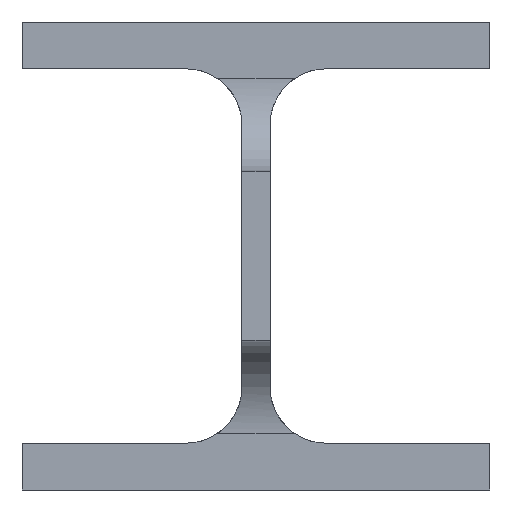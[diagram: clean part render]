
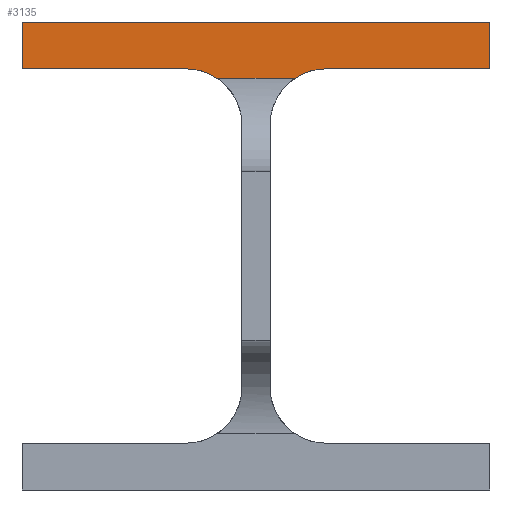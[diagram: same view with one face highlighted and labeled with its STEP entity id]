
A CAD part, front view. The second image highlights one B-rep face of the part: STEP entity #3135.
In plain terms, the highlighted planar face has unit normal (0, -1, 0).
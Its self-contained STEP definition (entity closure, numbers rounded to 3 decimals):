
#68 = EDGE_CURVE ( 'NONE', #3659, #521, #294, .T. ) ;
#95 = CARTESIAN_POINT ( 'NONE',  ( 50., 52., 2390. ) ) ;
#179 = ORIENTED_EDGE ( 'NONE', *, *, #68, .T. ) ;
#227 = EDGE_CURVE ( 'NONE', #2035, #3659, #2768, .T. ) ;
#228 = CARTESIAN_POINT ( 'NONE',  ( 15., 52., 2380. ) ) ;
#272 = CARTESIAN_POINT ( 'NONE',  ( 15., 52., 2380. ) ) ;
#294 = LINE ( 'NONE', #3525, #3067 ) ;
#325 = VECTOR ( 'NONE', #2594, 1000. ) ;
#416 = LINE ( 'NONE', #1543, #325 ) ;
#434 = AXIS2_PLACEMENT_3D ( 'NONE', #2231, #2876, #1183 ) ;
#444 = EDGE_CURVE ( 'NONE', #1883, #3564, #2618, .T. ) ;
#471 = LINE ( 'NONE', #1325, #3146 ) ;
#521 = VERTEX_POINT ( 'NONE', #95 ) ;
#538 = FACE_OUTER_BOUND ( 'NONE', #1463, .T. ) ;
#590 = DIRECTION ( 'NONE',  ( -1., 0., 0. ) ) ;
#687 = CARTESIAN_POINT ( 'NONE',  ( 6000., 52., 2378. ) ) ;
#912 = ORIENTED_EDGE ( 'NONE', *, *, #444, .F. ) ;
#930 = DIRECTION ( 'NONE',  ( 0., 1., 0. ) ) ;
#986 = EDGE_CURVE ( 'NONE', #521, #2931, #3123, .T. ) ;
#1086 = CARTESIAN_POINT ( 'NONE',  ( -50., 52., 2380. ) ) ;
#1183 = DIRECTION ( 'NONE',  ( 0., 0., -1. ) ) ;
#1251 = ORIENTED_EDGE ( 'NONE', *, *, #986, .T. ) ;
#1325 = CARTESIAN_POINT ( 'NONE',  ( -50., 52., 2380. ) ) ;
#1463 = EDGE_LOOP ( 'NONE', ( #2493, #1606, #179, #1251, #2347, #3269, #2901, #912 ) ) ;
#1536 = AXIS2_PLACEMENT_3D ( 'NONE', #3471, #930, #3582 ) ;
#1543 = CARTESIAN_POINT ( 'NONE',  ( -50., 52., 2390. ) ) ;
#1570 = DIRECTION ( 'NONE',  ( 0., 0., 1. ) ) ;
#1590 = AXIS2_PLACEMENT_3D ( 'NONE', #3053, #2217, #1639 ) ;
#1606 = ORIENTED_EDGE ( 'NONE', *, *, #227, .T. ) ;
#1607 = VECTOR ( 'NONE', #1769, 1000. ) ;
#1636 = EDGE_CURVE ( 'NONE', #1892, #2071, #471, .T. ) ;
#1639 = DIRECTION ( 'NONE',  ( 0., 0., -1. ) ) ;
#1769 = DIRECTION ( 'NONE',  ( -1., 0., 0. ) ) ;
#1832 = CIRCLE ( 'NONE', #1536, 12. ) ;
#1883 = VERTEX_POINT ( 'NONE', #3410 ) ;
#1892 = VERTEX_POINT ( 'NONE', #1086 ) ;
#1897 = DIRECTION ( 'NONE',  ( 1., 0., 0. ) ) ;
#1937 = CARTESIAN_POINT ( 'NONE',  ( 50., 52., 2380. ) ) ;
#1988 = CARTESIAN_POINT ( 'NONE',  ( -50., 52., 2390. ) ) ;
#2035 = VERTEX_POINT ( 'NONE', #272 ) ;
#2065 = CARTESIAN_POINT ( 'NONE',  ( -15., 52., 2380. ) ) ;
#2071 = VERTEX_POINT ( 'NONE', #2065 ) ;
#2160 = DIRECTION ( 'NONE',  ( 1., 0., 0. ) ) ;
#2217 = DIRECTION ( 'NONE',  ( 0., -1., 0. ) ) ;
#2231 = CARTESIAN_POINT ( 'NONE',  ( -15., 52., 2368. ) ) ;
#2347 = ORIENTED_EDGE ( 'NONE', *, *, #2744, .T. ) ;
#2403 = CARTESIAN_POINT ( 'NONE',  ( -8.367, 52., 2378. ) ) ;
#2425 = EDGE_CURVE ( 'NONE', #2071, #3564, #2651, .T. ) ;
#2490 = VECTOR ( 'NONE', #1897, 1000. ) ;
#2493 = ORIENTED_EDGE ( 'NONE', *, *, #3021, .T. ) ;
#2594 = DIRECTION ( 'NONE',  ( 0., 0., -1. ) ) ;
#2618 = LINE ( 'NONE', #687, #1607 ) ;
#2651 = CIRCLE ( 'NONE', #434, 12. ) ;
#2744 = EDGE_CURVE ( 'NONE', #2931, #1892, #416, .T. ) ;
#2768 = LINE ( 'NONE', #228, #2490 ) ;
#2876 = DIRECTION ( 'NONE',  ( 0., 1., 0. ) ) ;
#2901 = ORIENTED_EDGE ( 'NONE', *, *, #2425, .T. ) ;
#2910 = VECTOR ( 'NONE', #590, 1000. ) ;
#2931 = VERTEX_POINT ( 'NONE', #1988 ) ;
#3021 = EDGE_CURVE ( 'NONE', #1883, #2035, #1832, .T. ) ;
#3053 = CARTESIAN_POINT ( 'NONE',  ( 6000., 52., 2390. ) ) ;
#3067 = VECTOR ( 'NONE', #1570, 1000. ) ;
#3123 = LINE ( 'NONE', #3376, #2910 ) ;
#3135 = ADVANCED_FACE ( 'NONE', ( #538 ), #3365, .T. ) ;
#3146 = VECTOR ( 'NONE', #2160, 1000. ) ;
#3269 = ORIENTED_EDGE ( 'NONE', *, *, #1636, .T. ) ;
#3365 = PLANE ( 'NONE',  #1590 ) ;
#3376 = CARTESIAN_POINT ( 'NONE',  ( 50., 52., 2390. ) ) ;
#3410 = CARTESIAN_POINT ( 'NONE',  ( 8.367, 52., 2378. ) ) ;
#3471 = CARTESIAN_POINT ( 'NONE',  ( 15., 52., 2368. ) ) ;
#3525 = CARTESIAN_POINT ( 'NONE',  ( 50., 52., 2380. ) ) ;
#3564 = VERTEX_POINT ( 'NONE', #2403 ) ;
#3582 = DIRECTION ( 'NONE',  ( 0., 0., -1. ) ) ;
#3659 = VERTEX_POINT ( 'NONE', #1937 ) ;
